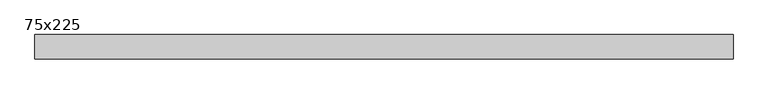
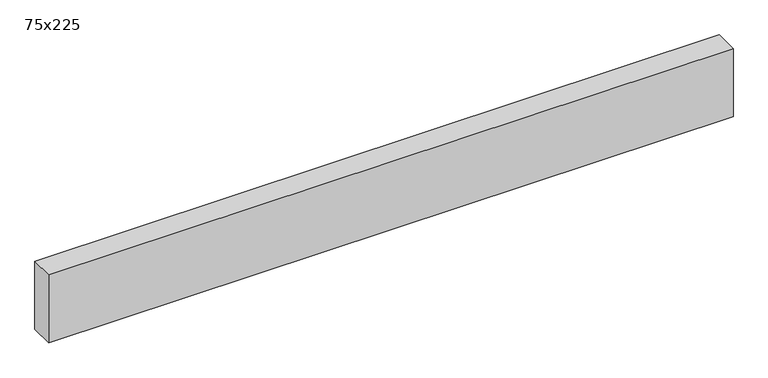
"""IFC4 building model written with IfcOpenShell, lengths in millimetres: beam geometry, Madrier : 75x225."""

from ifc_helpers import new_model, si_unit, frame, origin, place, context, project, spatial, polyline, outline, extrude, source, transform, mapped, element, save


def beam_75x225_7bc41753(model_context):
    return source(origin(), model_context, "Body", "SweptSolid", [
        extrude(outline(polyline([(1090.0, 37.5), (1090.0, -37.5), (-1052.5, -37.5), (-1052.5, 37.5), (1090.0, 37.5)])), frame((0.0, 0.0, -112.5), z_axis=(0.0, 0.0, 1.0), x_axis=(1.0, 0.0, 0.0)), (0.0, 0.0, 1.0), 225.0),
    ])


if __name__ == "__main__":
    model = new_model("IFC4")
    model_context = context("Model", 3, world=origin())
    ifc_project = project(units=[si_unit("LENGTHUNIT", "METRE", prefix="MILLI")], contexts=[model_context])
    site = spatial("IfcSite", under=ifc_project)
    building = spatial("IfcBuilding", under=site)
    placement = place(None, origin())
    beam_75x225_shape = beam_75x225_7bc41753(model_context)
    element("IfcBeam", 1, ObjectType="Madrier : 75x225", at=placement, inside=building, context=model_context, shape_type="MappedRepresentation", body=[
        mapped(beam_75x225_shape, transform((0.0, 0.0, 0.0), x_axis=(1.0, 0.0, 0.0), y_axis=(0.0, 1.0, 0.0), z_axis=(0.0, 0.0, 1.0))),
    ])
    save(model, "model.ifc")
